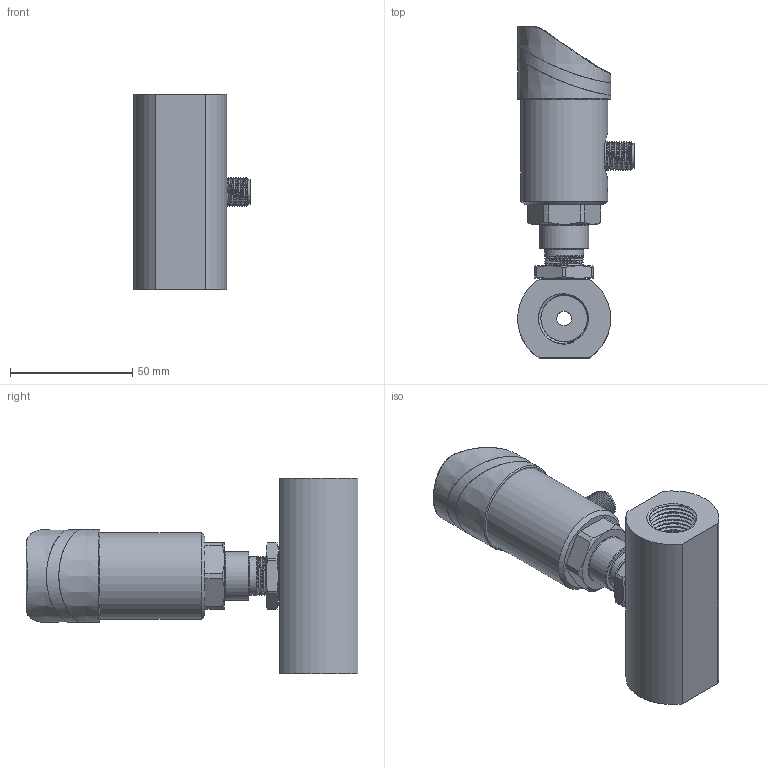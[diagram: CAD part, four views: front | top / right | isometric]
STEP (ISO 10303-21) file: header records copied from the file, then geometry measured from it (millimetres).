
FILE_DESCRIPTION( (''), '2;1');
FILE_NAME( 'QTKE_DN6_female-thread.step', '2024-10-15T08:49:36+08:00', (''), (''), '', '', '');
FILE_SCHEMA (('AUTOMOTIVE_DESIGN { 1 0 10303 214 3 1 1 1 }'));
Length unit declared in the file: millimetre
Products named in the file (1): QTKE DN6_female-thread
Bounding box: 47.7 x 135.5 x 80 mm (x, y, z)
Volume: 130370.9 mm3; surface area: 44118.2 mm2
Topology: 5 solids, 6 shells, 713 faces, 1858 edges, 1214 vertices
Faces by surface type: plane 266, extrusion 141, cylinder 130, cone 71, bspline 62, torus 32, sphere 11
Full cylindrical faces by diameter (mm): 1.689 x1, 2.7 x3, 6 x1, 12 x1, 15 x1, 15.9 x1, 16.5 x1, 20 x1, 23 x3, 26 x5, 35.5 x1, 37.001 x1
Entity records: 36751 total; most frequent: CARTESIAN_POINT 18969, ORIENTED_EDGE 3550, DIRECTION 2769, EDGE_CURVE 1775, VERTEX_POINT 1183, VECTOR 961, AXIS2_PLACEMENT_3D 904, EDGE_LOOP 828
